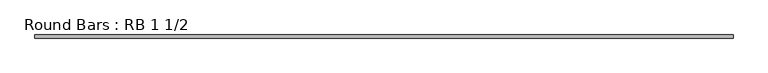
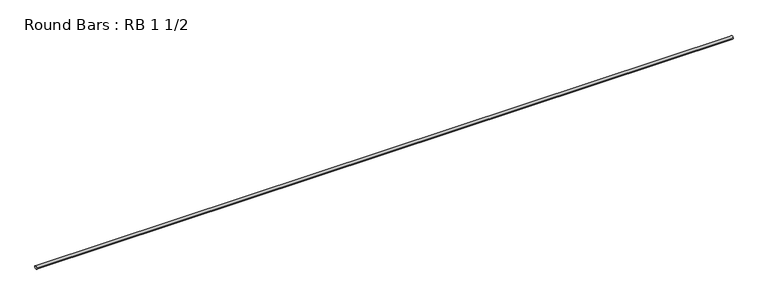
"""IFC4 building model written with IfcOpenShell, lengths in millimetres: member geometry, Round Bars : RB 1 1/2."""

from ifc_helpers import new_model, si_unit, point, frame, origin, origin_2d, place, context, project, spatial, circle_curve, trimmed, segment, composite_curve, outline, extrude, source, transform, mapped, element, save


def round_bars_rb_1_1_2_8bf5e9bd(model_context):
    return source(origin(), model_context, "Body", "SweptSolid", [
        extrude(outline(composite_curve([segment(trimmed(circle_curve(origin_2d(), 19.05), [point((19.05, 0.0))], [point((-19.05, 0.0))], False, "CARTESIAN"), True, "CONTINUOUS"), segment(trimmed(circle_curve(origin_2d(), 19.05), [point((-19.05, 0.0))], [point((19.05, 0.0))], False, "CARTESIAN"), True, "CONTINUOUS")], self_intersect=False)), frame((-4213.3775653, 0.0, 0.0), z_axis=(1.0, 0.0, 0.0), x_axis=(0.0, 1.0, 0.0)), (0.0, 0.0, 1.0), 8459.6703308),
    ])


if __name__ == "__main__":
    model = new_model("IFC4")
    model_context = context("Model", 3, world=origin())
    ifc_project = project(units=[si_unit("LENGTHUNIT", "METRE", prefix="MILLI")], contexts=[model_context])
    site = spatial("IfcSite", under=ifc_project)
    building = spatial("IfcBuilding", under=site)
    placement = place(None, origin())
    round_bars_rb_1_1_2_shape = round_bars_rb_1_1_2_8bf5e9bd(model_context)
    element("IfcMember", 1, ObjectType="Round Bars : RB 1 1/2", at=placement, inside=building, context=model_context, shape_type="MappedRepresentation", body=[
        mapped(round_bars_rb_1_1_2_shape, transform((0.0, 0.0, 0.0), x_axis=(1.0, 0.0, 0.0), y_axis=(0.0, 1.0, 0.0), z_axis=(0.0, 0.0, 1.0))),
    ])
    save(model, "model.ifc")
